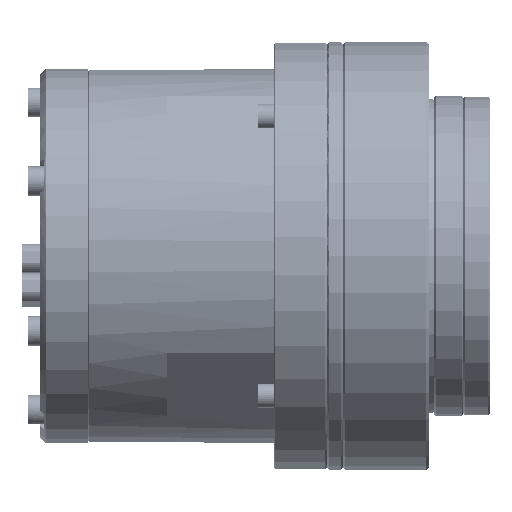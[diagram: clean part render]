
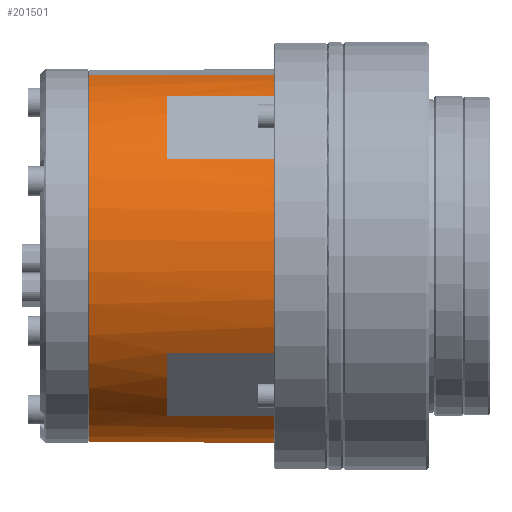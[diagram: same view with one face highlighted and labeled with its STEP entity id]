
A CAD part, front view. The second image highlights one B-rep face of the part: STEP entity #201501.
In plain terms, the highlighted cylindrical face has radius 35 mm (diameter 70 mm), a partial arc.
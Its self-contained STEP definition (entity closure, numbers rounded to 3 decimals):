
#373 = ORIENTED_EDGE ( 'NONE', *, *, #285869, .F. ) ;
#631 = LINE ( 'NONE', #170008, #372611 ) ;
#6669 = CARTESIAN_POINT ( 'NONE',  ( -29., 0., 0. ) ) ;
#11330 = EDGE_CURVE ( 'NONE', #36382, #77755, #158920, .T. ) ;
#11774 = CARTESIAN_POINT ( 'NONE',  ( -29., 0., 0. ) ) ;
#12156 = LINE ( 'NONE', #128222, #165803 ) ;
#16605 = VERTEX_POINT ( 'NONE', #166447 ) ;
#24030 = DIRECTION ( 'NONE',  ( -1., 0., 0. ) ) ;
#24692 = EDGE_CURVE ( 'NONE', #161735, #347142, #271250, .T. ) ;
#25845 = VERTEX_POINT ( 'NONE', #180412 ) ;
#27982 = CIRCLE ( 'NONE', #271066, 35. ) ;
#28596 = VERTEX_POINT ( 'NONE', #198689 ) ;
#32933 = FACE_OUTER_BOUND ( 'NONE', #298358, .T. ) ;
#33027 = CARTESIAN_POINT ( 'NONE',  ( -19., -18.168, 29.915 ) ) ;
#36382 = VERTEX_POINT ( 'NONE', #312348 ) ;
#37646 = DIRECTION ( 'NONE',  ( -1., 0., 0. ) ) ;
#39786 = CIRCLE ( 'NONE', #70220, 35. ) ;
#43381 = ORIENTED_EDGE ( 'NONE', *, *, #233790, .F. ) ;
#50422 = CARTESIAN_POINT ( 'NONE',  ( -19., 9.059, -33.807 ) ) ;
#54428 = CYLINDRICAL_SURFACE ( 'NONE', #330575, 35. ) ;
#55430 = DIRECTION ( 'NONE',  ( 0., 0.259, -0.966 ) ) ;
#61546 = DIRECTION ( 'NONE',  ( -1., 0., 0. ) ) ;
#67098 = CARTESIAN_POINT ( 'NONE',  ( -29., 0., 0. ) ) ;
#70220 = AXIS2_PLACEMENT_3D ( 'NONE', #11774, #359891, #156371 ) ;
#71385 = VERTEX_POINT ( 'NONE', #165169 ) ;
#77755 = VERTEX_POINT ( 'NONE', #170664 ) ;
#78974 = DIRECTION ( 'NONE',  ( -1., 0., 0. ) ) ;
#80484 = EDGE_CURVE ( 'NONE', #161735, #283985, #182236, .T. ) ;
#81620 = ORIENTED_EDGE ( 'NONE', *, *, #318817, .F. ) ;
#82130 = CARTESIAN_POINT ( 'NONE',  ( -49., 0., 0. ) ) ;
#85283 = EDGE_CURVE ( 'NONE', #25845, #137579, #136116, .T. ) ;
#86721 = ORIENTED_EDGE ( 'NONE', *, *, #115894, .T. ) ;
#91531 = AXIS2_PLACEMENT_3D ( 'NONE', #67098, #116716, #238349 ) ;
#96015 = ORIENTED_EDGE ( 'NONE', *, *, #313746, .T. ) ;
#99535 = CARTESIAN_POINT ( 'NONE',  ( -63.5, 9.059, -33.807 ) ) ;
#106894 = EDGE_CURVE ( 'NONE', #28596, #138982, #631, .T. ) ;
#111472 = DIRECTION ( 'NONE',  ( 0., 0.259, -0.966 ) ) ;
#115894 = EDGE_CURVE ( 'NONE', #283985, #137579, #27982, .T. ) ;
#116716 = DIRECTION ( 'NONE',  ( 1., 0., 0. ) ) ;
#120559 = LINE ( 'NONE', #33027, #221950 ) ;
#124615 = DIRECTION ( 'NONE',  ( 0., -0.259, 0.966 ) ) ;
#128222 = CARTESIAN_POINT ( 'NONE',  ( -19., -29.915, -18.168 ) ) ;
#131390 = ORIENTED_EDGE ( 'NONE', *, *, #85283, .F. ) ;
#134185 = CIRCLE ( 'NONE', #91531, 35. ) ;
#135055 = EDGE_CURVE ( 'NONE', #16605, #25845, #39786, .T. ) ;
#136116 = LINE ( 'NONE', #50422, #286700 ) ;
#137579 = VERTEX_POINT ( 'NONE', #99535 ) ;
#138982 = VERTEX_POINT ( 'NONE', #330965 ) ;
#145074 = CIRCLE ( 'NONE', #375826, 35. ) ;
#156045 = CARTESIAN_POINT ( 'NONE',  ( -29., -9.059, 33.807 ) ) ;
#156371 = DIRECTION ( 'NONE',  ( 0., -0.259, 0.966 ) ) ;
#158920 = CIRCLE ( 'NONE', #292539, 35. ) ;
#161735 = VERTEX_POINT ( 'NONE', #156045 ) ;
#165169 = CARTESIAN_POINT ( 'NONE',  ( -49., -18.168, 29.915 ) ) ;
#165803 = VECTOR ( 'NONE', #187166, 1000. ) ;
#166447 = CARTESIAN_POINT ( 'NONE',  ( -29., -18.168, -29.915 ) ) ;
#170008 = CARTESIAN_POINT ( 'NONE',  ( -19., -29.915, 18.168 ) ) ;
#170664 = CARTESIAN_POINT ( 'NONE',  ( -49., -29.915, -18.168 ) ) ;
#171694 = DIRECTION ( 'NONE',  ( 1., 0., 0. ) ) ;
#177300 = LINE ( 'NONE', #264789, #325977 ) ;
#180412 = CARTESIAN_POINT ( 'NONE',  ( -29., 9.059, -33.807 ) ) ;
#182236 = LINE ( 'NONE', #298312, #194353 ) ;
#187166 = DIRECTION ( 'NONE',  ( -1., 0., 0. ) ) ;
#194353 = VECTOR ( 'NONE', #37646, 1000. ) ;
#198689 = CARTESIAN_POINT ( 'NONE',  ( -49., -29.915, 18.168 ) ) ;
#199027 = CARTESIAN_POINT ( 'NONE',  ( -19., 0., 0. ) ) ;
#201501 = ADVANCED_FACE ( 'NONE', ( #32933 ), #54428, .T. ) ;
#209621 = ORIENTED_EDGE ( 'NONE', *, *, #80484, .T. ) ;
#221950 = VECTOR ( 'NONE', #61546, 1000. ) ;
#223042 = ORIENTED_EDGE ( 'NONE', *, *, #24692, .F. ) ;
#227105 = DIRECTION ( 'NONE',  ( 1., 0., 0. ) ) ;
#233790 = EDGE_CURVE ( 'NONE', #347142, #71385, #120559, .T. ) ;
#238349 = DIRECTION ( 'NONE',  ( 0., -0.259, 0.966 ) ) ;
#240918 = ORIENTED_EDGE ( 'NONE', *, *, #11330, .T. ) ;
#252495 = ORIENTED_EDGE ( 'NONE', *, *, #269887, .F. ) ;
#254973 = VERTEX_POINT ( 'NONE', #279586 ) ;
#256166 = CARTESIAN_POINT ( 'NONE',  ( -63.5, -9.059, 33.807 ) ) ;
#257855 = DIRECTION ( 'NONE',  ( -1., 0., 0. ) ) ;
#259715 = CARTESIAN_POINT ( 'NONE',  ( -49., 0., 0. ) ) ;
#264789 = CARTESIAN_POINT ( 'NONE',  ( -19., -18.168, -29.915 ) ) ;
#268519 = ORIENTED_EDGE ( 'NONE', *, *, #135055, .F. ) ;
#269887 = EDGE_CURVE ( 'NONE', #254973, #77755, #12156, .T. ) ;
#271066 = AXIS2_PLACEMENT_3D ( 'NONE', #373898, #341654, #111472 ) ;
#271250 = CIRCLE ( 'NONE', #374658, 35. ) ;
#279586 = CARTESIAN_POINT ( 'NONE',  ( -29., -29.915, -18.168 ) ) ;
#283985 = VERTEX_POINT ( 'NONE', #256166 ) ;
#285869 = EDGE_CURVE ( 'NONE', #36382, #16605, #177300, .T. ) ;
#286700 = VECTOR ( 'NONE', #78974, 1000. ) ;
#292539 = AXIS2_PLACEMENT_3D ( 'NONE', #82130, #373126, #55430 ) ;
#298312 = CARTESIAN_POINT ( 'NONE',  ( -19., -9.059, 33.807 ) ) ;
#298358 = EDGE_LOOP ( 'NONE', ( #223042, #209621, #86721, #131390, #268519, #373, #240918, #252495, #81620, #308335, #96015, #43381 ) ) ;
#308335 = ORIENTED_EDGE ( 'NONE', *, *, #106894, .F. ) ;
#311570 = CARTESIAN_POINT ( 'NONE',  ( -29., -18.168, 29.915 ) ) ;
#312348 = CARTESIAN_POINT ( 'NONE',  ( -49., -18.168, -29.915 ) ) ;
#313746 = EDGE_CURVE ( 'NONE', #28596, #71385, #145074, .T. ) ;
#315085 = DIRECTION ( 'NONE',  ( 0., 0.259, -0.966 ) ) ;
#318817 = EDGE_CURVE ( 'NONE', #138982, #254973, #134185, .T. ) ;
#325977 = VECTOR ( 'NONE', #171694, 1000. ) ;
#330575 = AXIS2_PLACEMENT_3D ( 'NONE', #199027, #24030, #315085 ) ;
#330965 = CARTESIAN_POINT ( 'NONE',  ( -29., -29.915, 18.168 ) ) ;
#341654 = DIRECTION ( 'NONE',  ( 1., 0., 0. ) ) ;
#347142 = VERTEX_POINT ( 'NONE', #311570 ) ;
#354800 = DIRECTION ( 'NONE',  ( 1., 0., 0. ) ) ;
#359891 = DIRECTION ( 'NONE',  ( 1., 0., 0. ) ) ;
#368216 = DIRECTION ( 'NONE',  ( 0., 0.259, -0.966 ) ) ;
#372611 = VECTOR ( 'NONE', #227105, 1000. ) ;
#373126 = DIRECTION ( 'NONE',  ( -1., 0., 0. ) ) ;
#373898 = CARTESIAN_POINT ( 'NONE',  ( -63.5, 0., 0. ) ) ;
#374658 = AXIS2_PLACEMENT_3D ( 'NONE', #6669, #354800, #124615 ) ;
#375826 = AXIS2_PLACEMENT_3D ( 'NONE', #259715, #257855, #368216 ) ;
